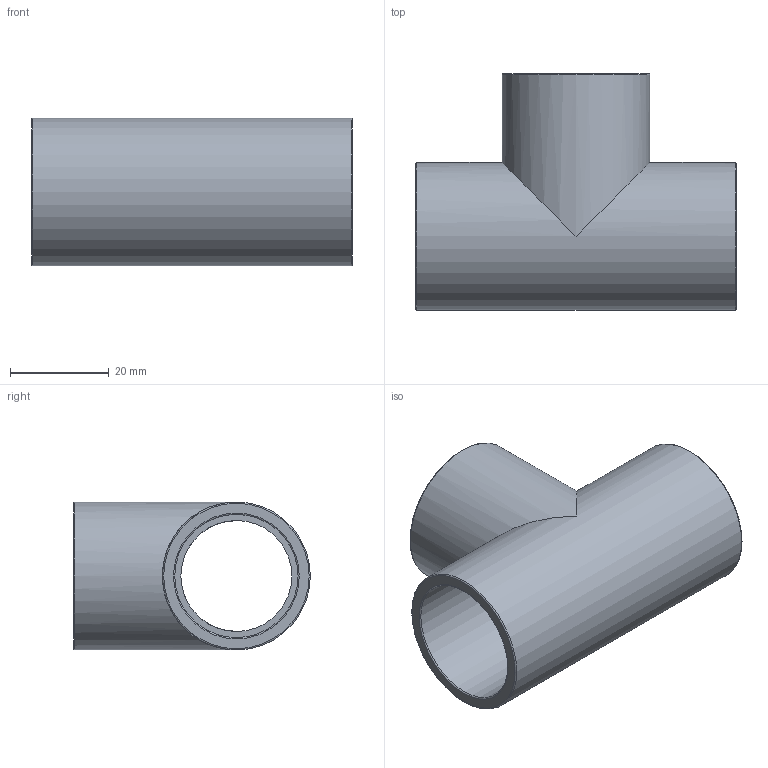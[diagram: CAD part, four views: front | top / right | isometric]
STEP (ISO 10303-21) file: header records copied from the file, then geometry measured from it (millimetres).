
FILE_DESCRIPTION(/* description */ ('PLASSON TEE-CEMENT PVC 25'),/* implementation_level */ '2;1');
FILE_NAME(/* name */ 'C:\Dropbox\KIMPROJECTS-Inventor\99-16-3568-Processing\PVC Catalog 2017\050400\050400025.ipt.stp',/* time_stamp */ '2017-12-07T15:54:21+02:00',/* author */ ('KIM'),/* organization */ (''),/* preprocessor_version */ 'ST-DEVELOPER v15.6',/* originating_system */ 'Autodesk Inventor 2015',/* authorisation */ '');
FILE_SCHEMA (('AUTOMOTIVE_DESIGN { 1 0 10303 214 3 1 1 }'));
Length unit declared in the file: millimetre
Products named in the file (1): 050400025
Bounding box: 65 x 48 x 30 mm (x, y, z)
Volume: 19780.3 mm3; surface area: 14670.8 mm2
Topology: 1 solids, 1 shells, 19 faces, 43 edges, 28 vertices
Faces by surface type: cylinder 7, torus 6, plane 6
Full cylindrical faces by diameter (mm): 22.5 x2, 25 x3, 30 x2
Entity records: 446 total; most frequent: DIRECTION 84, CARTESIAN_POINT 64, ORIENTED_EDGE 44, AXIS2_PLACEMENT_3D 42, EDGE_LOOP 40, VERTEX_POINT 22, EDGE_CURVE 22, FACE_BOUND 21
